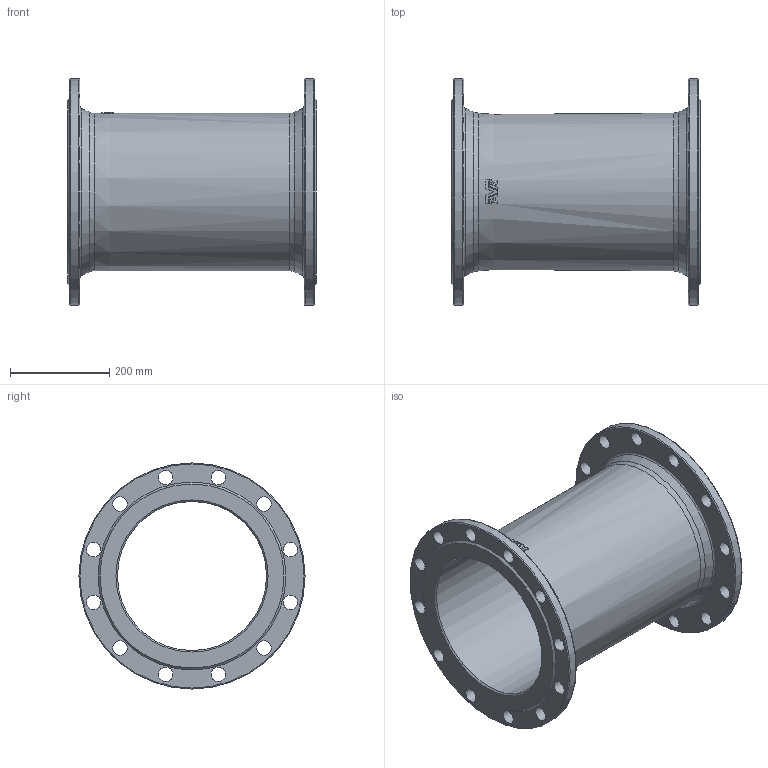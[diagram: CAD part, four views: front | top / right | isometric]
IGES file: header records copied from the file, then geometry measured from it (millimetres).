
Start section: SolidWorks IGES file using analytic representation for surfaces
Global section: file name: \\avksan2\techshare\PBM outline export from Enovia\O_712_4810_DN300_1X_REV01.igs; native system: SolidWorks 2019; preprocessor: SolidWorks 2019; author: pbm; date: 211201.114933; units: millimetre
Bounding box: 500 x 455 x 455 mm (x, y, z)
Surface area: 1321661.1 mm2 (no closed solid volume)
Topology: 0 solids, 0 shells, 89 faces, 436 edges, 393 vertices
Faces by surface type: revolution 46, bspline 43
